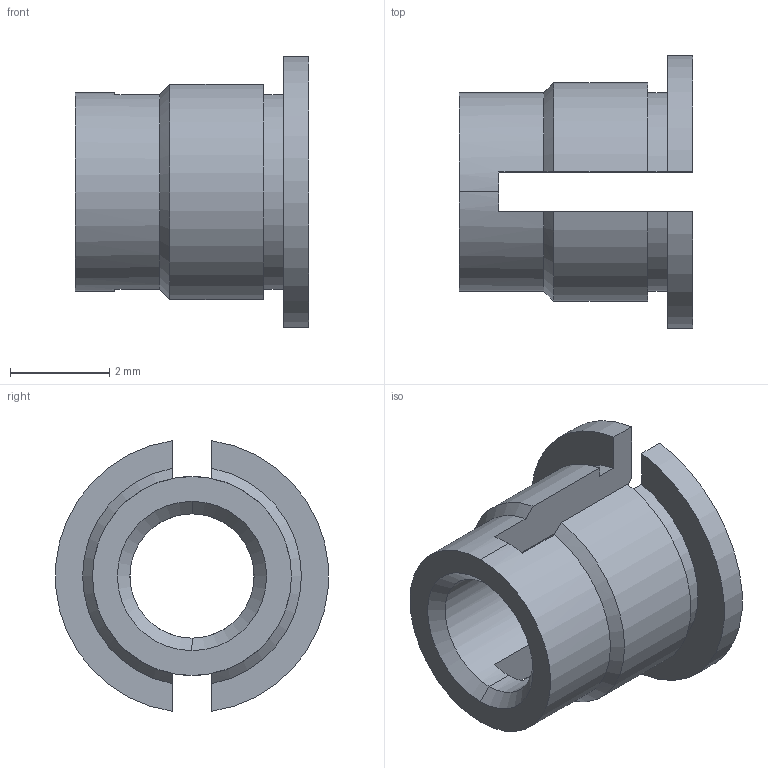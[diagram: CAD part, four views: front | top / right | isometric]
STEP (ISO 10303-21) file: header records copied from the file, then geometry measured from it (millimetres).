
FILE_DESCRIPTION (( 'STEP AP203' ), '1' );
FILE_NAME ('FSUK-EXPR-M03-S.STEP', '2021-04-15T17:27:13', ( '' ), ( '' ), 'SwSTEP 2.0', 'SolidWorks 2021', '' );
FILE_SCHEMA (( 'CONFIG_CONTROL_DESIGN' ));
Length unit declared in the file: millimetre
Products named in the file (1): FSUK-EXPR-M03-S
Bounding box: 4.7 x 5.48 x 5.44 mm (x, y, z)
Volume: 40.5 mm3; surface area: 140.1 mm2
Topology: 1 solids, 1 shells, 29 faces, 82 edges, 54 vertices
Faces by surface type: plane 13, cylinder 10, cone 6
Entity records: 1041 total; most frequent: CARTESIAN_POINT 190, DIRECTION 166, ORIENTED_EDGE 164, EDGE_CURVE 82, AXIS2_PLACEMENT_3D 62, VERTEX_POINT 54, LINE 42, VECTOR 42
